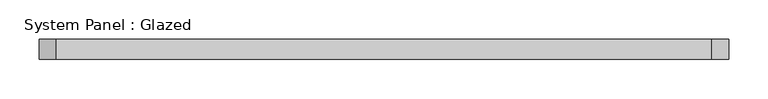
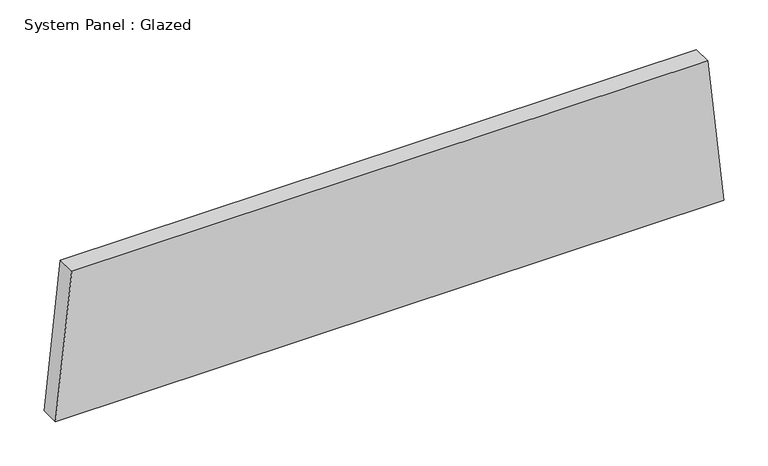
"""IFC4 building model written with IfcOpenShell, lengths in millimetres: plate geometry, System Panel : Glazed."""

from ifc_helpers import new_model, si_unit, frame, origin, place, context, project, spatial, polyline, outline, extrude, source, transform, mapped, element, save


def system_panel_glazed_4562f0d4(model_context):
    return source(origin(), model_context, "Body", "SweptSolid", [
        extrude(outline(polyline([(0.0, -437.9070812), (0.0, 437.9070812), (201.0481529, 416.4595676), (201.0481529, -416.4595676), (0.0, -437.9070812)])), frame((0.0, -44.45, 0.0), z_axis=(0.0, 1.0, 0.0), x_axis=(0.0, 0.0, 1.0)), (0.0, 0.0, 1.0), 25.4),
    ])


if __name__ == "__main__":
    model = new_model("IFC4")
    model_context = context("Model", 3, world=origin())
    ifc_project = project(units=[si_unit("LENGTHUNIT", "METRE", prefix="MILLI")], contexts=[model_context])
    site = spatial("IfcSite", under=ifc_project)
    building = spatial("IfcBuilding", under=site)
    placement = place(None, origin())
    system_panel_glazed_shape = system_panel_glazed_4562f0d4(model_context)
    element("IfcPlate", 1, ObjectType="System Panel : Glazed", at=placement, inside=building, context=model_context, shape_type="MappedRepresentation", body=[
        mapped(system_panel_glazed_shape, transform((0.0, 0.0, 0.0), x_axis=(1.0, 0.0, 0.0), y_axis=(0.0, 1.0, 0.0), z_axis=(0.0, 0.0, 1.0))),
    ])
    save(model, "model.ifc")
